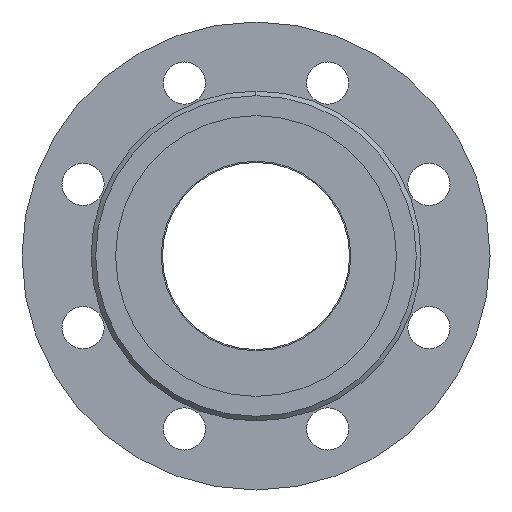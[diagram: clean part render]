
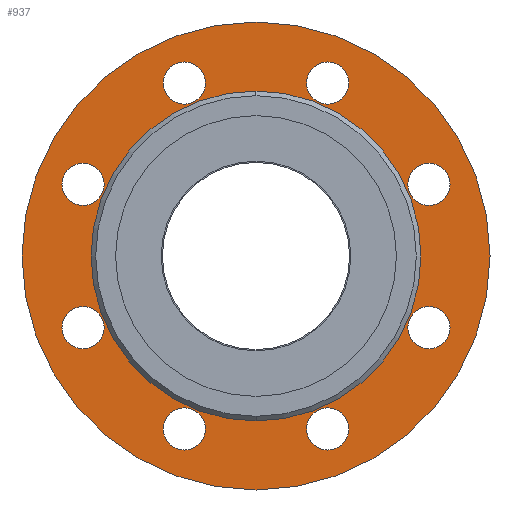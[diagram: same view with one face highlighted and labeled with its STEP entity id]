
A CAD part, left-side view. The second image highlights one B-rep face of the part: STEP entity #937.
In plain terms, the highlighted planar face has unit normal (-1, 0, 0).
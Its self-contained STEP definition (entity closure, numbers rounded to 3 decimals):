
#937=ADVANCED_FACE('',(#1752,#1753,#1754,#1755,#1756,#1757,#1758,#1759,#1760,#1761),#1762,.F.);
#1752=FACE_BOUND('',#2632,.T.);
#1753=FACE_BOUND('',#2633,.T.);
#1754=FACE_BOUND('',#2634,.T.);
#1755=FACE_BOUND('',#2635,.T.);
#1756=FACE_BOUND('',#2636,.T.);
#1757=FACE_BOUND('',#2637,.T.);
#1758=FACE_BOUND('',#2638,.T.);
#1759=FACE_BOUND('',#2639,.T.);
#1760=FACE_BOUND('',#2640,.T.);
#1761=FACE_OUTER_BOUND('',#2641,.T.);
#1762=PLANE('',#2642);
#2632=EDGE_LOOP('',(#4446,#4447));
#2633=EDGE_LOOP('',(#4448,#4449));
#2634=EDGE_LOOP('',(#4450,#4451));
#2635=EDGE_LOOP('',(#4452,#4453));
#2636=EDGE_LOOP('',(#4454,#4455));
#2637=EDGE_LOOP('',(#4456,#4457));
#2638=EDGE_LOOP('',(#4458,#4459));
#2639=EDGE_LOOP('',(#4460,#4461));
#2640=EDGE_LOOP('',(#4462,#4463));
#2641=EDGE_LOOP('',(#4464,#4465));
#2642=AXIS2_PLACEMENT_3D('',#4466,#4467,#4468);
#4446=ORIENTED_EDGE('',*,*,#4990,.T.);
#4447=ORIENTED_EDGE('',*,*,#5125,.T.);
#4448=ORIENTED_EDGE('',*,*,#4969,.T.);
#4449=ORIENTED_EDGE('',*,*,#4798,.T.);
#4450=ORIENTED_EDGE('',*,*,#5154,.T.);
#4451=ORIENTED_EDGE('',*,*,#4896,.T.);
#4452=ORIENTED_EDGE('',*,*,#5305,.T.);
#4453=ORIENTED_EDGE('',*,*,#5025,.T.);
#4454=ORIENTED_EDGE('',*,*,#5492,.T.);
#4455=ORIENTED_EDGE('',*,*,#5493,.T.);
#4456=ORIENTED_EDGE('',*,*,#5366,.T.);
#4457=ORIENTED_EDGE('',*,*,#5115,.T.);
#4458=ORIENTED_EDGE('',*,*,#5353,.T.);
#4459=ORIENTED_EDGE('',*,*,#4964,.T.);
#4460=ORIENTED_EDGE('',*,*,#4785,.T.);
#4461=ORIENTED_EDGE('',*,*,#5494,.T.);
#4462=ORIENTED_EDGE('',*,*,#4868,.T.);
#4463=ORIENTED_EDGE('',*,*,#5412,.T.);
#4464=ORIENTED_EDGE('',*,*,#5020,.F.);
#4465=ORIENTED_EDGE('',*,*,#5402,.F.);
#4466=CARTESIAN_POINT('',(5.0,0.0,0.));
#4467=DIRECTION('',(1.0,0.0,0.));
#4468=DIRECTION('',(0.,0.0,-1.0));
#4785=EDGE_CURVE('',#5585,#5589,#5591,.T.);
#4798=EDGE_CURVE('',#5612,#5610,#5613,.T.);
#4868=EDGE_CURVE('',#5731,#5735,#5737,.T.);
#4896=EDGE_CURVE('',#5783,#5781,#5784,.T.);
#4964=EDGE_CURVE('',#5899,#5897,#5900,.T.);
#4969=EDGE_CURVE('',#5610,#5612,#5906,.T.);
#4990=EDGE_CURVE('',#5937,#5935,#5938,.T.);
#5020=EDGE_CURVE('',#5984,#5987,#5988,.T.);
#5025=EDGE_CURVE('',#5996,#5994,#5997,.T.);
#5115=EDGE_CURVE('',#6141,#6139,#6142,.T.);
#5125=EDGE_CURVE('',#5935,#5937,#6157,.T.);
#5154=EDGE_CURVE('',#5781,#5783,#6200,.T.);
#5305=EDGE_CURVE('',#5994,#5996,#6408,.T.);
#5353=EDGE_CURVE('',#5897,#5899,#6464,.T.);
#5366=EDGE_CURVE('',#6139,#6141,#6480,.T.);
#5402=EDGE_CURVE('',#5987,#5984,#6528,.T.);
#5412=EDGE_CURVE('',#5735,#5731,#6538,.T.);
#5492=EDGE_CURVE('',#6628,#6629,#6630,.T.);
#5493=EDGE_CURVE('',#6629,#6628,#6631,.T.);
#5494=EDGE_CURVE('',#5589,#5585,#6632,.T.);
#5585=VERTEX_POINT('',#6731);
#5589=VERTEX_POINT('',#6736);
#5591=CIRCLE('',#6739,9.0);
#5610=VERTEX_POINT('',#6762);
#5612=VERTEX_POINT('',#6765);
#5613=CIRCLE('',#6766,9.0);
#5731=VERTEX_POINT('',#6911);
#5735=VERTEX_POINT('',#6916);
#5737=CIRCLE('',#6919,9.0);
#5781=VERTEX_POINT('',#6973);
#5783=VERTEX_POINT('',#6976);
#5784=CIRCLE('',#6977,9.0);
#5897=VERTEX_POINT('',#7114);
#5899=VERTEX_POINT('',#7117);
#5900=CIRCLE('',#7118,9.0);
#5906=CIRCLE('',#7125,9.0);
#5935=VERTEX_POINT('',#7162);
#5937=VERTEX_POINT('',#7165);
#5938=CIRCLE('',#7166,40.0);
#5984=VERTEX_POINT('',#7220);
#5987=VERTEX_POINT('',#7224);
#5988=CIRCLE('',#7225,100.0);
#5994=VERTEX_POINT('',#7232);
#5996=VERTEX_POINT('',#7235);
#5997=CIRCLE('',#7236,9.0);
#6139=VERTEX_POINT('',#7407);
#6141=VERTEX_POINT('',#7410);
#6142=CIRCLE('',#7411,9.0);
#6157=CIRCLE('',#7429,40.0);
#6200=CIRCLE('',#7485,9.0);
#6408=CIRCLE('',#7737,9.0);
#6464=CIRCLE('',#7807,9.0);
#6480=CIRCLE('',#7823,9.0);
#6528=CIRCLE('',#7887,100.0);
#6538=CIRCLE('',#7899,9.0);
#6628=VERTEX_POINT('',#8004);
#6629=VERTEX_POINT('',#8005);
#6630=CIRCLE('',#8006,9.0);
#6631=CIRCLE('',#8007,9.0);
#6632=CIRCLE('',#8008,9.0);
#6731=CARTESIAN_POINT('',(5.0,-73.91,-39.615));
#6736=CARTESIAN_POINT('',(5.0,-73.91,-21.615));
#6739=AXIS2_PLACEMENT_3D('',#8104,#8105,#8106);
#6762=CARTESIAN_POINT('',(5.0,73.91,-39.615));
#6765=CARTESIAN_POINT('',(5.0,73.91,-21.615));
#6766=AXIS2_PLACEMENT_3D('',#8121,#8122,#8123);
#6911=CARTESIAN_POINT('',(5.0,-30.615,-82.91));
#6916=CARTESIAN_POINT('',(5.0,-30.615,-64.91));
#6919=AXIS2_PLACEMENT_3D('',#8228,#8229,#8230);
#6973=CARTESIAN_POINT('',(5.0,30.615,-82.91));
#6976=CARTESIAN_POINT('',(5.0,30.615,-64.91));
#6977=AXIS2_PLACEMENT_3D('',#8269,#8270,#8271);
#7114=CARTESIAN_POINT('',(5.0,30.615,64.91));
#7117=CARTESIAN_POINT('',(5.0,30.615,82.91));
#7118=AXIS2_PLACEMENT_3D('',#8375,#8376,#8377);
#7125=AXIS2_PLACEMENT_3D('',#8385,#8386,#8387);
#7162=CARTESIAN_POINT('',(5.0,0.,-40.0));
#7165=CARTESIAN_POINT('',(5.0,0.,40.0));
#7166=AXIS2_PLACEMENT_3D('',#8412,#8413,#8414);
#7220=CARTESIAN_POINT('',(5.,0.0,-100.0));
#7224=CARTESIAN_POINT('',(5.,0.,100.0));
#7225=AXIS2_PLACEMENT_3D('',#8463,#8464,#8465);
#7232=CARTESIAN_POINT('',(5.0,-73.91,21.615));
#7235=CARTESIAN_POINT('',(5.0,-73.91,39.615));
#7236=AXIS2_PLACEMENT_3D('',#8471,#8472,#8473);
#7407=CARTESIAN_POINT('',(5.0,73.91,21.615));
#7410=CARTESIAN_POINT('',(5.0,73.91,39.615));
#7411=AXIS2_PLACEMENT_3D('',#8621,#8622,#8623);
#7429=AXIS2_PLACEMENT_3D('',#8639,#8640,#8641);
#7485=AXIS2_PLACEMENT_3D('',#8676,#8677,#8678);
#7737=AXIS2_PLACEMENT_3D('',#8915,#8916,#8917);
#7807=AXIS2_PLACEMENT_3D('',#8980,#8981,#8982);
#7823=AXIS2_PLACEMENT_3D('',#9004,#9005,#9006);
#7887=AXIS2_PLACEMENT_3D('',#9041,#9042,#9043);
#7899=AXIS2_PLACEMENT_3D('',#9055,#9056,#9057);
#8004=CARTESIAN_POINT('',(5.0,-30.615,64.91));
#8005=CARTESIAN_POINT('',(5.0,-30.615,82.91));
#8006=AXIS2_PLACEMENT_3D('',#9139,#9140,#9141);
#8007=AXIS2_PLACEMENT_3D('',#9142,#9143,#9144);
#8008=AXIS2_PLACEMENT_3D('',#9145,#9146,#9147);
#8104=CARTESIAN_POINT('',(5.0,-73.91,-30.615));
#8105=DIRECTION('',(1.0,0.0,0.));
#8106=DIRECTION('',(0.,0.0,-1.0));
#8121=CARTESIAN_POINT('',(5.0,73.91,-30.615));
#8122=DIRECTION('',(1.0,0.0,0.));
#8123=DIRECTION('',(0.,0.0,-1.0));
#8228=CARTESIAN_POINT('',(5.0,-30.615,-73.91));
#8229=DIRECTION('',(1.0,0.0,0.));
#8230=DIRECTION('',(0.,0.0,-1.0));
#8269=CARTESIAN_POINT('',(5.0,30.615,-73.91));
#8270=DIRECTION('',(1.0,0.0,0.));
#8271=DIRECTION('',(0.,0.0,-1.0));
#8375=CARTESIAN_POINT('',(5.0,30.615,73.91));
#8376=DIRECTION('',(1.0,0.0,0.));
#8377=DIRECTION('',(0.,0.0,-1.0));
#8385=CARTESIAN_POINT('',(5.0,73.91,-30.615));
#8386=DIRECTION('',(1.0,0.0,0.));
#8387=DIRECTION('',(0.,0.0,-1.0));
#8412=CARTESIAN_POINT('',(5.0,0.0,0.));
#8413=DIRECTION('',(1.0,0.0,0.));
#8414=DIRECTION('',(0.,0.0,-1.0));
#8463=CARTESIAN_POINT('',(5.0,0.0,0.));
#8464=DIRECTION('',(1.0,0.0,0.));
#8465=DIRECTION('',(0.,0.0,-1.0));
#8471=CARTESIAN_POINT('',(5.0,-73.91,30.615));
#8472=DIRECTION('',(1.0,0.0,0.));
#8473=DIRECTION('',(0.,0.0,-1.0));
#8621=CARTESIAN_POINT('',(5.0,73.91,30.615));
#8622=DIRECTION('',(1.0,0.0,0.));
#8623=DIRECTION('',(0.,0.0,-1.0));
#8639=CARTESIAN_POINT('',(5.0,0.0,0.));
#8640=DIRECTION('',(1.0,0.0,0.));
#8641=DIRECTION('',(0.,0.0,-1.0));
#8676=CARTESIAN_POINT('',(5.0,30.615,-73.91));
#8677=DIRECTION('',(1.0,0.0,0.));
#8678=DIRECTION('',(0.,0.0,-1.0));
#8915=CARTESIAN_POINT('',(5.0,-73.91,30.615));
#8916=DIRECTION('',(1.0,0.0,0.));
#8917=DIRECTION('',(0.,0.0,-1.0));
#8980=CARTESIAN_POINT('',(5.0,30.615,73.91));
#8981=DIRECTION('',(1.0,0.0,0.));
#8982=DIRECTION('',(0.,0.0,-1.0));
#9004=CARTESIAN_POINT('',(5.0,73.91,30.615));
#9005=DIRECTION('',(1.0,0.0,0.));
#9006=DIRECTION('',(0.,0.0,-1.0));
#9041=CARTESIAN_POINT('',(5.0,0.0,0.));
#9042=DIRECTION('',(1.0,0.0,0.));
#9043=DIRECTION('',(0.,0.0,-1.0));
#9055=CARTESIAN_POINT('',(5.0,-30.615,-73.91));
#9056=DIRECTION('',(1.0,0.0,0.));
#9057=DIRECTION('',(0.,0.0,-1.0));
#9139=CARTESIAN_POINT('',(5.0,-30.615,73.91));
#9140=DIRECTION('',(1.0,0.0,0.));
#9141=DIRECTION('',(0.,0.0,-1.0));
#9142=CARTESIAN_POINT('',(5.0,-30.615,73.91));
#9143=DIRECTION('',(1.0,0.0,0.));
#9144=DIRECTION('',(0.,0.0,-1.0));
#9145=CARTESIAN_POINT('',(5.0,-73.91,-30.615));
#9146=DIRECTION('',(1.0,0.0,0.));
#9147=DIRECTION('',(0.,0.0,-1.0));
